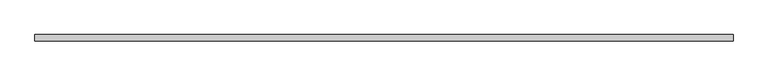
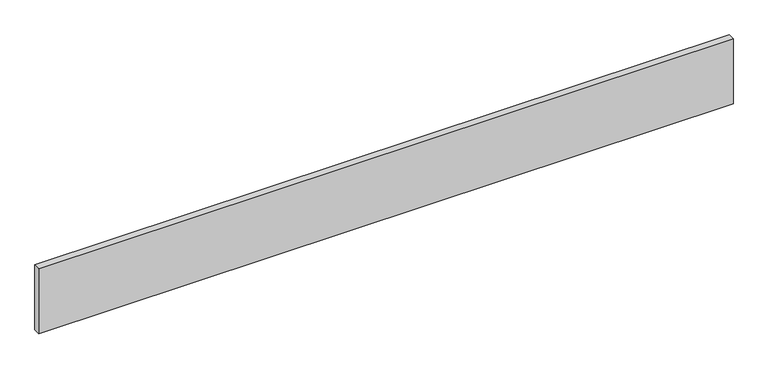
"""IFC4 building model written with IfcOpenShell, lengths in millimetres: beam geometry, Trus Joist - Rim Board Material : TJ® Rim Board – 11 7/8 x 1 1/8”."""

from ifc_helpers import new_model, si_unit, frame, origin, place, context, project, spatial, polyline, outline, extrude, source, transform, mapped, element, save


def beam_a4c40cd8(model_context):
    return source(origin(), model_context, "Body", "SweptSolid", [
        extrude(outline(polyline([(1514.475, -14.2875), (-1533.525, -14.2875), (-1533.525, 14.2875), (1514.475, 14.2875), (1514.475, -14.2875)])), frame((0.0, 0.0, -150.8125), z_axis=(0.0, 0.0, 1.0), x_axis=(1.0, 0.0, 0.0)), (0.0, 0.0, 1.0), 301.625),
    ])


if __name__ == "__main__":
    model = new_model("IFC4")
    model_context = context("Model", 3, world=origin())
    ifc_project = project(units=[si_unit("LENGTHUNIT", "METRE", prefix="MILLI")], contexts=[model_context])
    site = spatial("IfcSite", under=ifc_project)
    building = spatial("IfcBuilding", under=site)
    placement = place(None, origin())
    beam_shape = beam_a4c40cd8(model_context)
    element("IfcBeam", 1, ObjectType="Trus Joist - Rim Board Material : TJ® Rim Board – 11 7/8 x 1 1/8”", at=placement, inside=building, context=model_context, shape_type="MappedRepresentation", body=[
        mapped(beam_shape, transform((0.0, 0.0, 0.0), x_axis=(1.0, 0.0, 0.0), y_axis=(0.0, 1.0, 0.0), z_axis=(0.0, 0.0, 1.0))),
    ])
    save(model, "model.ifc")
